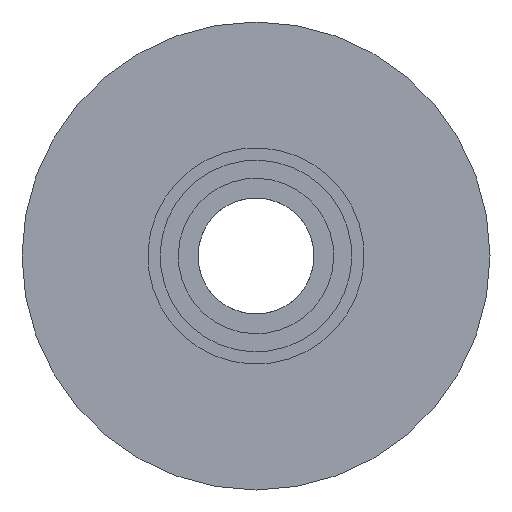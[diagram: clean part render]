
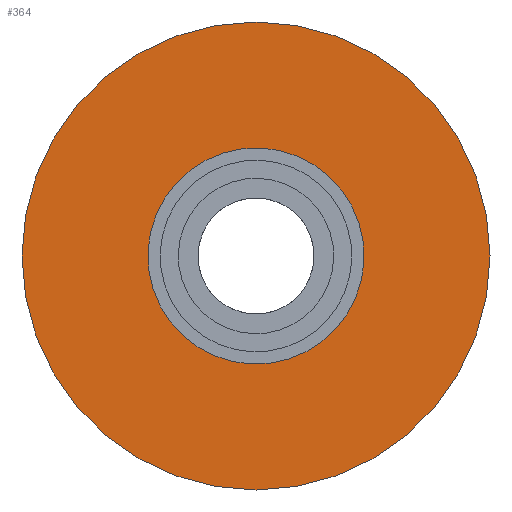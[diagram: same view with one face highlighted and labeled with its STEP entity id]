
A CAD part, left-side view. The second image highlights one B-rep face of the part: STEP entity #364.
In plain terms, the highlighted planar face has unit normal (-1, 0, 0).
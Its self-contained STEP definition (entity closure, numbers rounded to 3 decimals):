
#49 = FACE_BOUND ( 'NONE', #147, .T. ) ;
#51 = FACE_OUTER_BOUND ( 'NONE', #145, .T. ) ;
#52 = AXIS2_PLACEMENT_3D ( 'NONE', #669, #670, #671 ) ;
#145 = EDGE_LOOP ( 'NONE', ( #315 ) ) ;
#147 = EDGE_LOOP ( 'NONE', ( #269 ) ) ;
#269 = ORIENTED_EDGE ( 'NONE', *, *, #327, .F. ) ;
#315 = ORIENTED_EDGE ( 'NONE', *, *, #343, .F. ) ;
#327 = EDGE_CURVE ( 'NONE', #689, #689, #373, .T. ) ;
#343 = EDGE_CURVE ( 'NONE', #719, #719, #388, .T. ) ;
#364 = ADVANCED_FACE ( 'NONE', ( #49, #51 ), #668, .F. ) ;
#373 = CIRCLE ( 'NONE', #770, 4.725 ) ;
#388 = CIRCLE ( 'NONE', #485, 19.05 ) ;
#485 = AXIS2_PLACEMENT_3D ( 'NONE', #596, #597, #598 ) ;
#548 = CARTESIAN_POINT ( 'NONE',  ( 0., 0., 0. ) ) ;
#549 = DIRECTION ( 'NONE',  ( -1., 0., 0. ) ) ;
#550 = DIRECTION ( 'NONE',  ( 0., 0., 1. ) ) ;
#596 = CARTESIAN_POINT ( 'NONE',  ( 0., 0., 0. ) ) ;
#597 = DIRECTION ( 'NONE',  ( 1., 0., 0. ) ) ;
#598 = DIRECTION ( 'NONE',  ( 0., 0., -1. ) ) ;
#668 = PLANE ( 'NONE',  #52 ) ;
#669 = CARTESIAN_POINT ( 'NONE',  ( 0., 0., 0. ) ) ;
#670 = DIRECTION ( 'NONE',  ( 1., 0., 0. ) ) ;
#671 = DIRECTION ( 'NONE',  ( 0., 0., -1. ) ) ;
#689 = VERTEX_POINT ( 'NONE', #690 ) ;
#690 = CARTESIAN_POINT ( 'NONE',  ( 0., 0., 4.725 ) ) ;
#719 = VERTEX_POINT ( 'NONE', #720 ) ;
#720 = CARTESIAN_POINT ( 'NONE',  ( 0., 0., -19.05 ) ) ;
#770 = AXIS2_PLACEMENT_3D ( 'NONE', #548, #549, #550 ) ;
